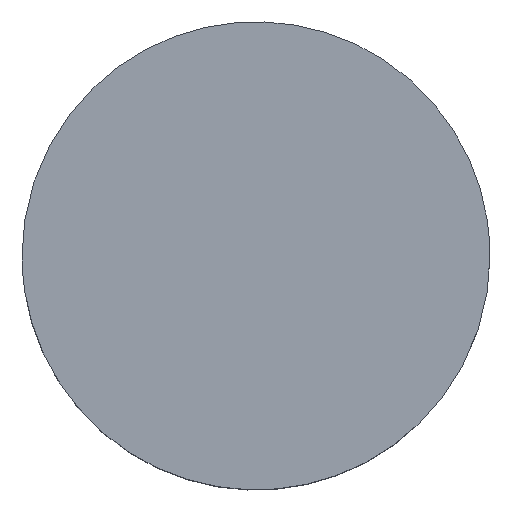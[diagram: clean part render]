
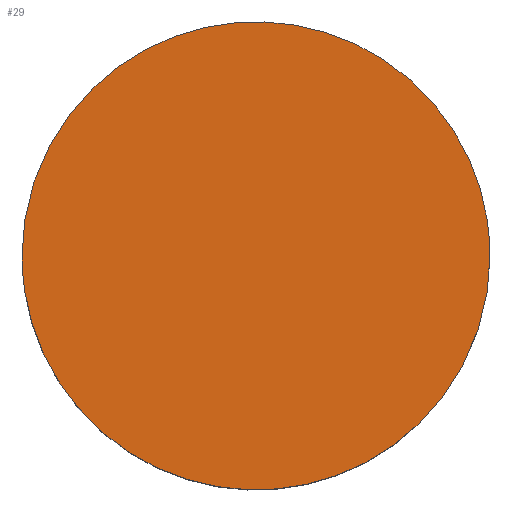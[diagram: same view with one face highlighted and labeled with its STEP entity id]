
A CAD part, top view. The second image highlights one B-rep face of the part: STEP entity #29.
In plain terms, the highlighted planar face has unit normal (0, 0, 1).
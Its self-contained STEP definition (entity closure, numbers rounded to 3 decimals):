
#29=ADVANCED_FACE('',(#44),#204,.T.);
#44=FACE_OUTER_BOUND('',#59,.T.);
#59=EDGE_LOOP('',(#85,#86));
#85=ORIENTED_EDGE('',*,*,#149,.F.);
#86=ORIENTED_EDGE('',*,*,#132,.F.);
#132=EDGE_CURVE('',#186,#195,#168,.T.);
#149=EDGE_CURVE('',#195,#186,#181,.T.);
#168=(
BOUNDED_CURVE()
B_SPLINE_CURVE(2,(#546,#547,#548,#549,#550),.UNSPECIFIED.,.F.,.F.)
B_SPLINE_CURVE_WITH_KNOTS((3,2,3),(-75.398,-56.549,-37.699),
 .UNSPECIFIED.)
CURVE()
GEOMETRIC_REPRESENTATION_ITEM()
RATIONAL_B_SPLINE_CURVE((1.,0.707,1.,0.707,1.))
REPRESENTATION_ITEM('')
);
#181=(
BOUNDED_CURVE()
B_SPLINE_CURVE(2,(#642,#643,#644,#645,#646),.UNSPECIFIED.,.F.,.F.)
B_SPLINE_CURVE_WITH_KNOTS((3,2,3),(-37.699,-18.85,
0.),.UNSPECIFIED.)
CURVE()
GEOMETRIC_REPRESENTATION_ITEM()
RATIONAL_B_SPLINE_CURVE((1.,0.707,1.,0.707,1.))
REPRESENTATION_ITEM('')
);
#186=VERTEX_POINT('',#514);
#195=VERTEX_POINT('',#523);
#204=PLANE('',#235);
#235=AXIS2_PLACEMENT_3D('',#277,#241,$);
#241=DIRECTION('',(0.,0.,1.));
#277=CARTESIAN_POINT('',(15.,-15.,10.));
#514=CARTESIAN_POINT('',(12.,0.,10.));
#523=CARTESIAN_POINT('',(-12.,0.,10.));
#546=CARTESIAN_POINT('',(12.,0.,10.));
#547=CARTESIAN_POINT('',(12.,-12.,10.));
#548=CARTESIAN_POINT('',(0.,-12.,10.));
#549=CARTESIAN_POINT('',(-12.,-12.,10.));
#550=CARTESIAN_POINT('',(-12.,0.,10.));
#642=CARTESIAN_POINT('',(-12.,0.,10.));
#643=CARTESIAN_POINT('',(-12.,12.,10.));
#644=CARTESIAN_POINT('',(0.,12.,10.));
#645=CARTESIAN_POINT('',(12.,12.,10.));
#646=CARTESIAN_POINT('',(12.,0.,10.));
